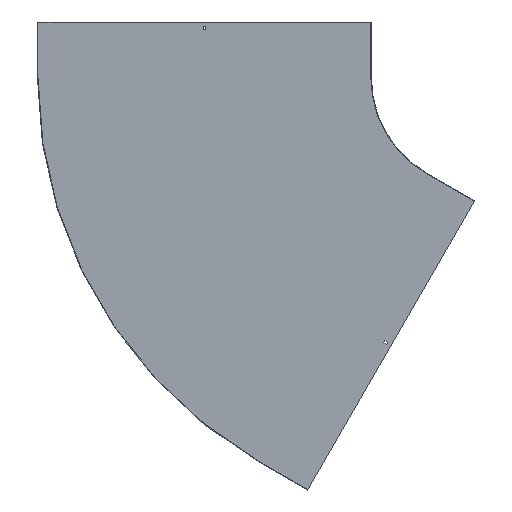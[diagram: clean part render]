
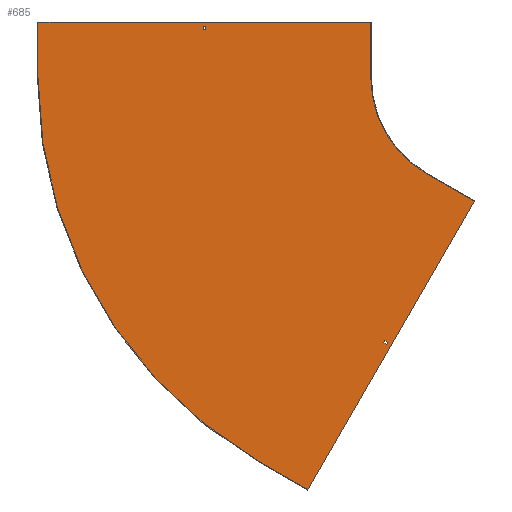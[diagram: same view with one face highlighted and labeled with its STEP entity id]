
A CAD part, front view. The second image highlights one B-rep face of the part: STEP entity #685.
In plain terms, the highlighted planar face has unit normal (0, -1, 0).
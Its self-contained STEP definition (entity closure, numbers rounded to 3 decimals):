
#5 = CARTESIAN_POINT ( 'NONE',  ( 111.717, -1.5, -64.5 ) ) ;
#6 = EDGE_CURVE ( 'NONE', #421, #563, #258, .T. ) ;
#15 = CARTESIAN_POINT ( 'NONE',  ( 0., -1.5, 0. ) ) ;
#33 = LINE ( 'NONE', #170, #738 ) ;
#45 = LINE ( 'NONE', #451, #379 ) ;
#49 = LINE ( 'NONE', #190, #725 ) ;
#52 = CARTESIAN_POINT ( 'NONE',  ( -1200., -1.5, 150. ) ) ;
#53 = EDGE_CURVE ( 'NONE', #563, #639, #790, .T. ) ;
#72 = LINE ( 'NONE', #5, #567 ) ;
#77 = CARTESIAN_POINT ( 'NONE',  ( -253.863, -1.5, -715.704 ) ) ;
#81 = PLANE ( 'NONE',  #233 ) ;
#84 = ORIENTED_EDGE ( 'NONE', *, *, #509, .F. ) ;
#86 = AXIS2_PLACEMENT_3D ( 'NONE', #240, #603, #765 ) ;
#119 = VERTEX_POINT ( 'NONE', #655 ) ;
#122 = DIRECTION ( 'NONE',  ( 0., 0., -1. ) ) ;
#127 = EDGE_LOOP ( 'NONE', ( #408, #178, #84, #623 ) ) ;
#129 = CARTESIAN_POINT ( 'NONE',  ( -753.25, -1.5, 0. ) ) ;
#134 = ORIENTED_EDGE ( 'NONE', *, *, #420, .F. ) ;
#164 = CARTESIAN_POINT ( 'NONE',  ( -150., -1.5, -259.808 ) ) ;
#170 = CARTESIAN_POINT ( 'NONE',  ( -19.346, -1.5, -333.509 ) ) ;
#178 = ORIENTED_EDGE ( 'NONE', *, *, #6, .F. ) ;
#179 = CARTESIAN_POINT ( 'NONE',  ( -746.75, -1.5, 0. ) ) ;
#182 = EDGE_CURVE ( 'NONE', #669, #350, #49, .T. ) ;
#183 = VECTOR ( 'NONE', #407, 1000. ) ;
#185 = LINE ( 'NONE', #777, #210 ) ;
#186 = EDGE_CURVE ( 'NONE', #726, #502, #377, .T. ) ;
#188 = DIRECTION ( 'NONE',  ( 1., 0., 0. ) ) ;
#189 = EDGE_CURVE ( 'NONE', #684, #702, #816, .T. ) ;
#190 = CARTESIAN_POINT ( 'NONE',  ( -150., -1.5, -259.808 ) ) ;
#191 = EDGE_CURVE ( 'NONE', #350, #684, #33, .T. ) ;
#210 = VECTOR ( 'NONE', #188, 1000. ) ;
#221 = VECTOR ( 'NONE', #309, 1000. ) ;
#233 = AXIS2_PLACEMENT_3D ( 'NONE', #15, #356, #670 ) ;
#234 = CARTESIAN_POINT ( 'NONE',  ( -470.096, -1.5, -1114.23 ) ) ;
#240 = CARTESIAN_POINT ( 'NONE',  ( 0., -1.5, 0. ) ) ;
#246 = LINE ( 'NONE', #774, #452 ) ;
#258 = LINE ( 'NONE', #516, #402 ) ;
#280 = CARTESIAN_POINT ( 'NONE',  ( -20.096, -1.5, -334.808 ) ) ;
#282 = DIRECTION ( 'NONE',  ( -0.5, 0., -0.866 ) ) ;
#309 = DIRECTION ( 'NONE',  ( -1., 0., 0. ) ) ;
#327 = ORIENTED_EDGE ( 'NONE', *, *, #189, .F. ) ;
#335 = AXIS2_PLACEMENT_3D ( 'NONE', #780, #707, #703 ) ;
#340 = CARTESIAN_POINT ( 'NONE',  ( -257.113, -1.5, -721.334 ) ) ;
#344 = CARTESIAN_POINT ( 'NONE',  ( -753.25, -1.5, 138. ) ) ;
#348 = CARTESIAN_POINT ( 'NONE',  ( -470.096, -1.5, -1114.23 ) ) ;
#350 = VERTEX_POINT ( 'NONE', #280 ) ;
#355 = ORIENTED_EDGE ( 'NONE', *, *, #186, .T. ) ;
#356 = DIRECTION ( 'NONE',  ( 0., -1., 0. ) ) ;
#377 = LINE ( 'NONE', #493, #650 ) ;
#379 = VECTOR ( 'NONE', #122, 1000. ) ;
#384 = DIRECTION ( 'NONE',  ( 0., 0., 1. ) ) ;
#402 = VECTOR ( 'NONE', #645, 1000. ) ;
#407 = DIRECTION ( 'NONE',  ( 0., 0., 1. ) ) ;
#408 = ORIENTED_EDGE ( 'NONE', *, *, #53, .F. ) ;
#415 = FACE_BOUND ( 'NONE', #755, .T. ) ;
#420 = EDGE_CURVE ( 'NONE', #786, #824, #660, .T. ) ;
#421 = VERTEX_POINT ( 'NONE', #340 ) ;
#432 = EDGE_CURVE ( 'NONE', #502, #776, #539, .T. ) ;
#443 = ORIENTED_EDGE ( 'NONE', *, *, #846, .F. ) ;
#448 = DIRECTION ( 'NONE',  ( 0.866, 0., -0.5 ) ) ;
#451 = CARTESIAN_POINT ( 'NONE',  ( -300., -1.5, 150. ) ) ;
#452 = VECTOR ( 'NONE', #511, 1000. ) ;
#454 = DIRECTION ( 'NONE',  ( -0.866, 0., 0.5 ) ) ;
#459 = VERTEX_POINT ( 'NONE', #637 ) ;
#474 = CARTESIAN_POINT ( 'NONE',  ( -1200., -1.5, 0. ) ) ;
#484 = EDGE_LOOP ( 'NONE', ( #512, #134, #688, #327, #604, #766, #499, #443 ) ) ;
#486 = EDGE_CURVE ( 'NONE', #459, #669, #708, .T. ) ;
#490 = EDGE_CURVE ( 'NONE', #741, #726, #837, .T. ) ;
#493 = CARTESIAN_POINT ( 'NONE',  ( 0., -1.5, 138. ) ) ;
#497 = DIRECTION ( 'NONE',  ( -0.866, 0., 0.5 ) ) ;
#499 = ORIENTED_EDGE ( 'NONE', *, *, #486, .F. ) ;
#502 = VERTEX_POINT ( 'NONE', #642 ) ;
#509 = EDGE_CURVE ( 'NONE', #571, #421, #246, .T. ) ;
#511 = DIRECTION ( 'NONE',  ( 0.866, 0., -0.5 ) ) ;
#512 = ORIENTED_EDGE ( 'NONE', *, *, #514, .F. ) ;
#514 = EDGE_CURVE ( 'NONE', #824, #119, #185, .T. ) ;
#516 = CARTESIAN_POINT ( 'NONE',  ( 119.512, -1.5, -69. ) ) ;
#538 = ORIENTED_EDGE ( 'NONE', *, *, #490, .T. ) ;
#539 = LINE ( 'NONE', #179, #751 ) ;
#550 = DIRECTION ( 'NONE',  ( 1., 0., 0. ) ) ;
#552 = FACE_BOUND ( 'NONE', #127, .T. ) ;
#563 = VERTEX_POINT ( 'NONE', #77 ) ;
#567 = VECTOR ( 'NONE', #282, 1000. ) ;
#571 = VERTEX_POINT ( 'NONE', #654 ) ;
#572 = CARTESIAN_POINT ( 'NONE',  ( -1200., -1.5, 0. ) ) ;
#585 = CARTESIAN_POINT ( 'NONE',  ( -261.658, -1.5, -711.204 ) ) ;
#603 = DIRECTION ( 'NONE',  ( 0., 1., 0. ) ) ;
#604 = ORIENTED_EDGE ( 'NONE', *, *, #191, .F. ) ;
#615 = DIRECTION ( 'NONE',  ( -0.5, 0., -0.866 ) ) ;
#622 = CIRCLE ( 'NONE', #86, 1200. ) ;
#623 = ORIENTED_EDGE ( 'NONE', *, *, #638, .F. ) ;
#624 = CARTESIAN_POINT ( 'NONE',  ( -746.75, -1.5, 129. ) ) ;
#632 = CARTESIAN_POINT ( 'NONE',  ( 0., -1.5, 129. ) ) ;
#637 = CARTESIAN_POINT ( 'NONE',  ( -300., -1.5, 0. ) ) ;
#638 = EDGE_CURVE ( 'NONE', #639, #571, #72, .T. ) ;
#639 = VERTEX_POINT ( 'NONE', #585 ) ;
#642 = CARTESIAN_POINT ( 'NONE',  ( -746.75, -1.5, 138. ) ) ;
#645 = DIRECTION ( 'NONE',  ( 0.5, 0., 0.866 ) ) ;
#650 = VECTOR ( 'NONE', #550, 1000. ) ;
#654 = CARTESIAN_POINT ( 'NONE',  ( -264.908, -1.5, -716.834 ) ) ;
#655 = CARTESIAN_POINT ( 'NONE',  ( -300., -1.5, 150. ) ) ;
#660 = LINE ( 'NONE', #474, #183 ) ;
#661 = VECTOR ( 'NONE', #384, 1000. ) ;
#669 = VERTEX_POINT ( 'NONE', #164 ) ;
#670 = DIRECTION ( 'NONE',  ( 0., 0., -1. ) ) ;
#684 = VERTEX_POINT ( 'NONE', #348 ) ;
#685 = ADVANCED_FACE ( 'NONE', ( #552, #826, #415 ), #81, .T. ) ;
#688 = ORIENTED_EDGE ( 'NONE', *, *, #700, .F. ) ;
#691 = ORIENTED_EDGE ( 'NONE', *, *, #432, .T. ) ;
#700 = EDGE_CURVE ( 'NONE', #702, #786, #622, .T. ) ;
#702 = VERTEX_POINT ( 'NONE', #744 ) ;
#703 = DIRECTION ( 'NONE',  ( 0., 0., -1. ) ) ;
#707 = DIRECTION ( 'NONE',  ( 0., -1., 0. ) ) ;
#708 = CIRCLE ( 'NONE', #335, 300. ) ;
#725 = VECTOR ( 'NONE', #448, 1000. ) ;
#726 = VERTEX_POINT ( 'NONE', #344 ) ;
#738 = VECTOR ( 'NONE', #615, 1000. ) ;
#741 = VERTEX_POINT ( 'NONE', #809 ) ;
#744 = CARTESIAN_POINT ( 'NONE',  ( -600., -1.5, -1039.23 ) ) ;
#751 = VECTOR ( 'NONE', #805, 1000. ) ;
#755 = EDGE_LOOP ( 'NONE', ( #355, #691, #847, #538 ) ) ;
#765 = DIRECTION ( 'NONE',  ( 0., 0., -1. ) ) ;
#766 = ORIENTED_EDGE ( 'NONE', *, *, #182, .F. ) ;
#774 = CARTESIAN_POINT ( 'NONE',  ( -376.625, -1.5, -652.334 ) ) ;
#776 = VERTEX_POINT ( 'NONE', #624 ) ;
#777 = CARTESIAN_POINT ( 'NONE',  ( -1201.5, -1.5, 150. ) ) ;
#780 = CARTESIAN_POINT ( 'NONE',  ( 0., -1.5, 0. ) ) ;
#786 = VERTEX_POINT ( 'NONE', #572 ) ;
#790 = LINE ( 'NONE', #850, #854 ) ;
#805 = DIRECTION ( 'NONE',  ( 0., 0., -1. ) ) ;
#806 = VECTOR ( 'NONE', #497, 1000. ) ;
#807 = EDGE_CURVE ( 'NONE', #776, #741, #844, .T. ) ;
#809 = CARTESIAN_POINT ( 'NONE',  ( -753.25, -1.5, 129. ) ) ;
#816 = LINE ( 'NONE', #234, #806 ) ;
#824 = VERTEX_POINT ( 'NONE', #52 ) ;
#826 = FACE_OUTER_BOUND ( 'NONE', #484, .T. ) ;
#837 = LINE ( 'NONE', #129, #661 ) ;
#844 = LINE ( 'NONE', #632, #221 ) ;
#846 = EDGE_CURVE ( 'NONE', #119, #459, #45, .T. ) ;
#847 = ORIENTED_EDGE ( 'NONE', *, *, #807, .T. ) ;
#850 = CARTESIAN_POINT ( 'NONE',  ( -373.375, -1.5, -646.704 ) ) ;
#854 = VECTOR ( 'NONE', #454, 1000. ) ;
